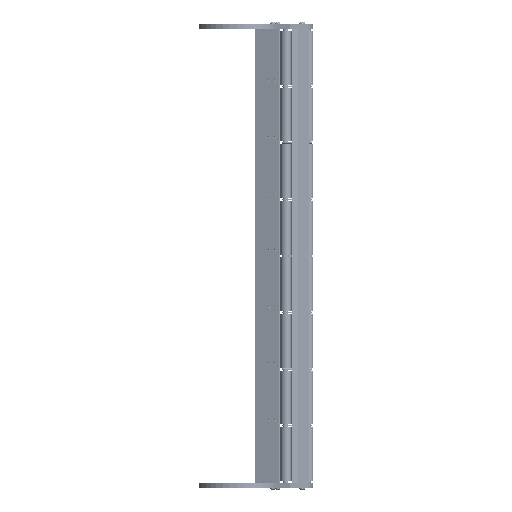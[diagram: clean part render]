
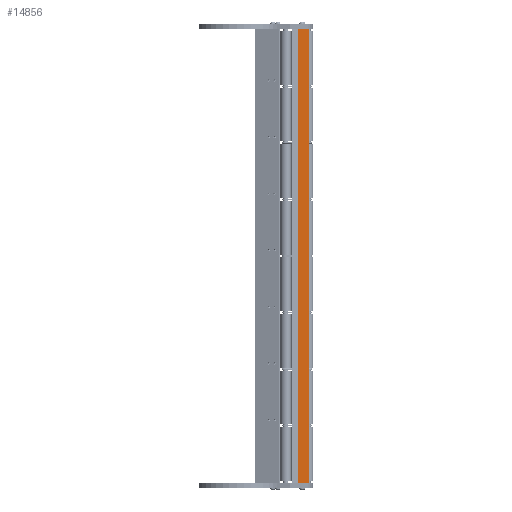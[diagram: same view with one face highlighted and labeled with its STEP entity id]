
A CAD part, front view. The second image highlights one B-rep face of the part: STEP entity #14856.
In plain terms, the highlighted planar face has unit normal (0.768, -0.641, 0) as drawn and (0, 1, 0) by its records, which use the part's own axes.
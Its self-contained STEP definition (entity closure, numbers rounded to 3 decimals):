
#404 = CARTESIAN_POINT ( 'NONE',  ( 25., 13.9, 0. ) ) ;
#1495 = DIRECTION ( 'NONE',  ( 0., -1., 0. ) ) ;
#1802 = DIRECTION ( 'NONE',  ( 0., 0., -1. ) ) ;
#1923 = VECTOR ( 'NONE', #2850, 1000. ) ;
#2850 = DIRECTION ( 'NONE',  ( 0., 0., -1. ) ) ;
#3017 = EDGE_CURVE ( 'NONE', #10172, #14991, #9941, .T. ) ;
#3197 = CARTESIAN_POINT ( 'NONE',  ( 25., 13.9, 647. ) ) ;
#3209 = PLANE ( 'NONE',  #6930 ) ;
#4367 = CARTESIAN_POINT ( 'NONE',  ( 0., 13.9, 647. ) ) ;
#4586 = EDGE_LOOP ( 'NONE', ( #8364, #4814, #8696, #16332 ) ) ;
#4679 = LINE ( 'NONE', #3197, #12043 ) ;
#4814 = ORIENTED_EDGE ( 'NONE', *, *, #3017, .F. ) ;
#6604 = VERTEX_POINT ( 'NONE', #6840 ) ;
#6840 = CARTESIAN_POINT ( 'NONE',  ( 25., 13.9, 0. ) ) ;
#6930 = AXIS2_PLACEMENT_3D ( 'NONE', #8825, #1495, #10943 ) ;
#8364 = ORIENTED_EDGE ( 'NONE', *, *, #14179, .T. ) ;
#8696 = ORIENTED_EDGE ( 'NONE', *, *, #18007, .F. ) ;
#8825 = CARTESIAN_POINT ( 'NONE',  ( 25., 13.9, 647. ) ) ;
#8909 = DIRECTION ( 'NONE',  ( -1., 0., 0. ) ) ;
#9941 = LINE ( 'NONE', #10022, #1923 ) ;
#10022 = CARTESIAN_POINT ( 'NONE',  ( 0., 13.9, 647. ) ) ;
#10172 = VERTEX_POINT ( 'NONE', #4367 ) ;
#10191 = DIRECTION ( 'NONE',  ( -1., 0., 0. ) ) ;
#10403 = CARTESIAN_POINT ( 'NONE',  ( 25., 13.9, 647. ) ) ;
#10943 = DIRECTION ( 'NONE',  ( 1., 0., 0. ) ) ;
#11456 = VECTOR ( 'NONE', #8909, 1000. ) ;
#12043 = VECTOR ( 'NONE', #1802, 1000. ) ;
#12764 = VECTOR ( 'NONE', #10191, 1000. ) ;
#12854 = LINE ( 'NONE', #404, #12764 ) ;
#14179 = EDGE_CURVE ( 'NONE', #6604, #14991, #12854, .T. ) ;
#14332 = CARTESIAN_POINT ( 'NONE',  ( 25., 13.9, 647. ) ) ;
#14856 = ADVANCED_FACE ( 'NONE', ( #15817 ), #3209, .F. ) ;
#14991 = VERTEX_POINT ( 'NONE', #16527 ) ;
#15705 = LINE ( 'NONE', #14332, #11456 ) ;
#15817 = FACE_OUTER_BOUND ( 'NONE', #4586, .T. ) ;
#15959 = VERTEX_POINT ( 'NONE', #10403 ) ;
#16332 = ORIENTED_EDGE ( 'NONE', *, *, #18067, .T. ) ;
#16527 = CARTESIAN_POINT ( 'NONE',  ( 0., 13.9, 0. ) ) ;
#18007 = EDGE_CURVE ( 'NONE', #15959, #10172, #15705, .T. ) ;
#18067 = EDGE_CURVE ( 'NONE', #15959, #6604, #4679, .T. ) ;
